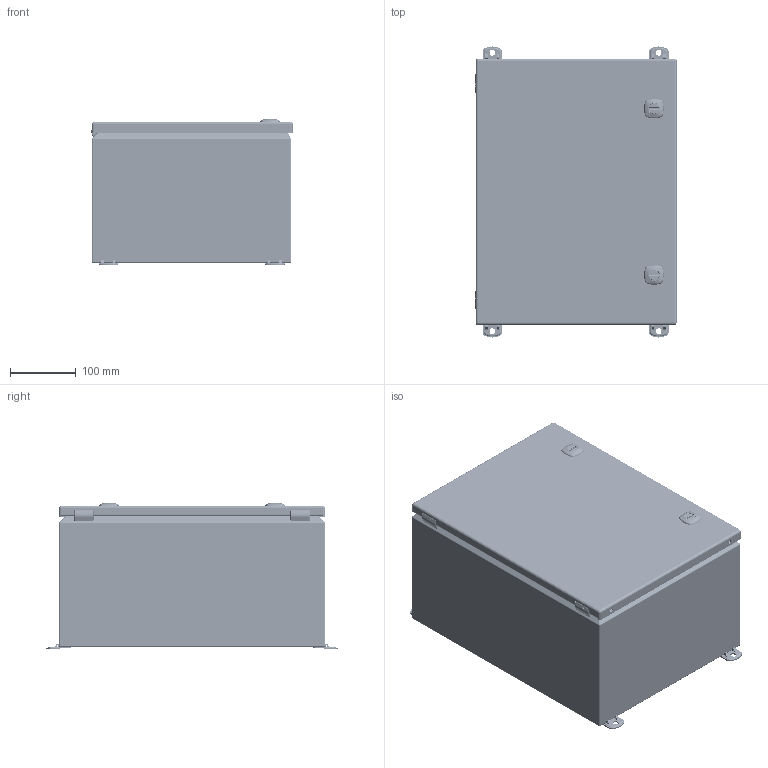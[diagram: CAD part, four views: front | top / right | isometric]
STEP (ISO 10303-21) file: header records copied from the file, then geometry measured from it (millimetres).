
FILE_DESCRIPTION(/* description */ ('5412ESM 16" x 12" x 8" Assembly'),/* implementation_level */ '2;1');
FILE_NAME(/* name */ 'C:\Vault_Workspace\Inventor_Dwg\BoxCad\Result\5412ESM161208\e-mail\3D\5412ESM161208.stp',/* time_stamp */ '2021-12-02T15:30:44-05:00',/* author */ ('BoxCad'),/* organization */ (''),/* preprocessor_version */ 'ST-DEVELOPER v18.1',/* originating_system */ 'Autodesk Inventor 2020',/* authorisation */ '');
FILE_SCHEMA (('AUTOMOTIVE_DESIGN { 1 0 10303 214 3 1 1 }'));
Products named in the file (41): 5412ESM161208; 5412ESM161208B; 5412ESM161208B-P; STK-Q-08350; STK-Q-00200; STK-Q-08112; 5412ESM161208MF-P; STK-Q-00200_1; STK-Q-00200-P; STK-Q-00200-N; STK-Q-08112_1; STK-Q-08112-A; STK-Q-08112-B; 880SP1612G; 880SP1612G-P; 5412ESM161208AK; 5412ESM161208C; 5412ESM161208C-P; 5412ESM161208G; STK-A-33033-1; STK-A-33033-2; STK-Q-33033-B; STK-Q-33033-S; STK-Q-33033-G; STK-P-02400S; STK-A-880SCQ4-SL-1; STANDOFF_M6 x 10mm; STK-S-00100; STK-A-880SCQ4-SL-2; STK-Q-78110; STK-Q-78120; STK-Q-78145; STK-Q-03200; STK-Q-78125; STK-Q-78141; STK-Q-90390; STK-Q-78160; STK-Q-08100-3; STK-Q-08100-4; STK-Q-08100-A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
Assembly tree (69 placements, depth 4):
  5412ESM161208
    5412ESM161208B
      5412ESM161208B-P
      STK-Q-08350  x4
      STK-P-02400S
      STK-Q-00200
        STK-Q-00200-P
        STK-Q-00200-N
      STK-Q-08112
        STK-Q-08112-A
        STK-Q-08112-B
      5412ESM161208MF-P  x4
      STANDOFF_M6 x 10mm
      STK-Q-00200_1
        STK-Q-00200-P
        STK-Q-00200-N
      STK-Q-08112_1
        STK-Q-08112-A
        STK-Q-08112-B
    880SP1612G
      880SP1612G-P
    5412ESM161208AK
      STK-Q-03200  x4
    5412ESM161208C
      5412ESM161208C-P
      5412ESM161208G
      STK-A-33033-1
        STK-Q-33033-B
        STK-Q-33033-S
        STK-Q-33033-G
      STK-A-33033-2
        STK-Q-33033-B
        STK-Q-33033-S
        STK-Q-33033-G
      STK-P-02400S
      STK-A-880SCQ4-SL-1
        STK-Q-78110
        STK-Q-78120
        STK-Q-78145
        STK-Q-03200
        STK-Q-78125
        STK-Q-78141
        STK-Q-90390
        STK-Q-78160
      STANDOFF_M6 x 10mm
      STK-S-00100
      STK-A-880SCQ4-SL-2
        STK-Q-78110
        STK-Q-78120
        STK-Q-78145
        STK-Q-03200
        STK-Q-78125
        STK-Q-78141
        STK-Q-90390
        STK-Q-78160
    STK-Q-08100-3
      STK-Q-08100-A
      STK-Q-08100-B
    STK-Q-08100-4
      STK-Q-08100-A
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Bounding box: 307.62 x 444.4 x 222.87 mm (x, y, z)
Volume: 1043081.7 mm3; surface area: 1461511 mm2
Topology: 55 solids, 55 shells, 7863 faces, 20060 edges, 12224 vertices
Faces by surface type: plane 4003, cylinder 1622, bspline 1392, torus 490, sphere 182, cone 174
Full cylindrical faces by diameter (mm): 0.762 x6, 0.9 x6, 3 x2, 3.175 x2, 3.25 x2, 4.2 x2, 4.4 x6, 4.45 x2, 4.6 x10, 4.9 x32, 5 x4, 5.1 x60, 5.4 x2, 5.9 x48, 6 x8, 6.1 x6, 7.62 x2, 7.8 x2, 8.128 x4, 9.6 x2, 9.9 x4, 10 x4, 12.8 x2, 13 x6, 15.9 x2, 16 x2, 19.7 x2, 20.6 x2, 25 x4, 29 x4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
Entity records: 118895 total; most frequent: CARTESIAN_POINT 46796, ORIENTED_EDGE 15514, DIRECTION 13437, EDGE_CURVE 7757, VERTEX_POINT 4779, AXIS2_PLACEMENT_3D 4751, LINE 3935, VECTOR 3935
